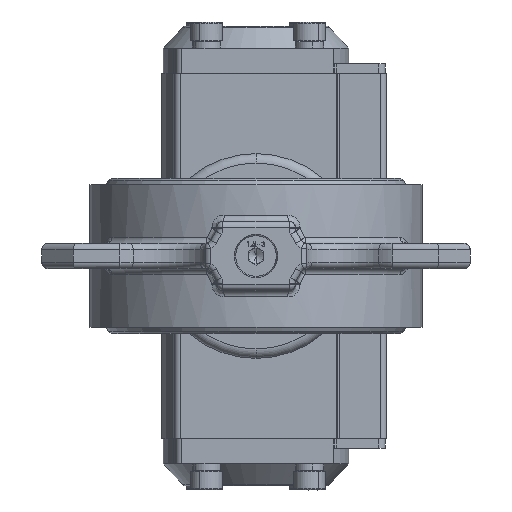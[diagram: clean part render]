
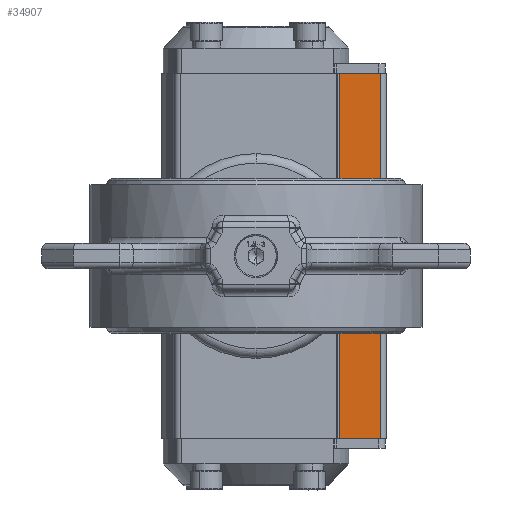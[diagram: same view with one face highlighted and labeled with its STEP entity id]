
A CAD part, front view. The second image highlights one B-rep face of the part: STEP entity #34907.
In plain terms, the highlighted planar face has unit normal (0, -1, 0).
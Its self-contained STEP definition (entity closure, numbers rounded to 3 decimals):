
#6147 = ORIENTED_EDGE ( 'NONE', *, *, #109670, .F. ) ;
#6148 = ORIENTED_EDGE ( 'NONE', *, *, #110012, .T. ) ;
#6150 = ORIENTED_EDGE ( 'NONE', *, *, #110019, .T. ) ;
#6151 = ORIENTED_EDGE ( 'NONE', *, *, #110023, .F. ) ;
#34907 = ADVANCED_FACE ( 'NONE', ( #201017 ), #201018, .T. ) ;
#63013 = VERTEX_POINT ( 'NONE', #205897 ) ;
#63014 = VERTEX_POINT ( 'NONE', #205898 ) ;
#63051 = VERTEX_POINT ( 'NONE', #205935 ) ;
#63052 = VERTEX_POINT ( 'NONE', #205936 ) ;
#83493 = AXIS2_PLACEMENT_3D ( 'NONE', #201014, #201021, #201022 ) ;
#109670 = EDGE_CURVE ( 'NONE', #63013, #63014, #186515, .T. ) ;
#110012 = EDGE_CURVE ( 'NONE', #63013, #63051, #187216, .T. ) ;
#110019 = EDGE_CURVE ( 'NONE', #63051, #63052, #187220, .T. ) ;
#110023 = EDGE_CURVE ( 'NONE', #63014, #63052, #187225, .T. ) ;
#138601 = EDGE_LOOP ( 'NONE', ( #6147, #6148, #6150, #6151 ) ) ;
#179706 = VECTOR ( 'NONE', #186528, 1000. ) ;
#180104 = VECTOR ( 'NONE', #187219, 1000. ) ;
#180107 = VECTOR ( 'NONE', #187224, 1000. ) ;
#180115 = VECTOR ( 'NONE', #187227, 1000. ) ;
#186514 = CARTESIAN_POINT ( 'NONE',  ( 0., 173.4, 58. ) ) ;
#186515 = LINE ( 'NONE', #186514, #179706 ) ;
#186528 = DIRECTION ( 'NONE',  ( 1., 0., 0. ) ) ;
#187216 = LINE ( 'NONE', #187218, #180104 ) ;
#187217 = CARTESIAN_POINT ( 'NONE',  ( 0., 173.4, -58. ) ) ;
#187218 = CARTESIAN_POINT ( 'NONE',  ( 26.5, 173.4, -58. ) ) ;
#187219 = DIRECTION ( 'NONE',  ( 0., 0., -1. ) ) ;
#187220 = LINE ( 'NONE', #187217, #180107 ) ;
#187224 = DIRECTION ( 'NONE',  ( 1., 0., 0. ) ) ;
#187225 = LINE ( 'NONE', #187226, #180115 ) ;
#187226 = CARTESIAN_POINT ( 'NONE',  ( 39.5, 173.4, 209.218 ) ) ;
#187227 = DIRECTION ( 'NONE',  ( 0., 0., -1. ) ) ;
#201014 = CARTESIAN_POINT ( 'NONE',  ( 26., 173.4, -58. ) ) ;
#201017 = FACE_OUTER_BOUND ( 'NONE', #138601, .T. ) ;
#201018 = PLANE ( 'NONE',  #83493 ) ;
#201021 = DIRECTION ( 'NONE',  ( 0., -1., 0. ) ) ;
#201022 = DIRECTION ( 'NONE',  ( 0., 0., -1. ) ) ;
#205897 = CARTESIAN_POINT ( 'NONE',  ( 26.5, 173.4, 58. ) ) ;
#205898 = CARTESIAN_POINT ( 'NONE',  ( 39.5, 173.4, 58. ) ) ;
#205935 = CARTESIAN_POINT ( 'NONE',  ( 26.5, 173.4, -58. ) ) ;
#205936 = CARTESIAN_POINT ( 'NONE',  ( 39.5, 173.4, -58. ) ) ;
